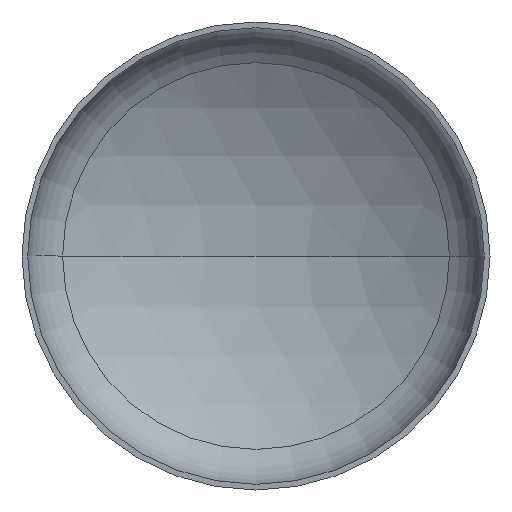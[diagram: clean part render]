
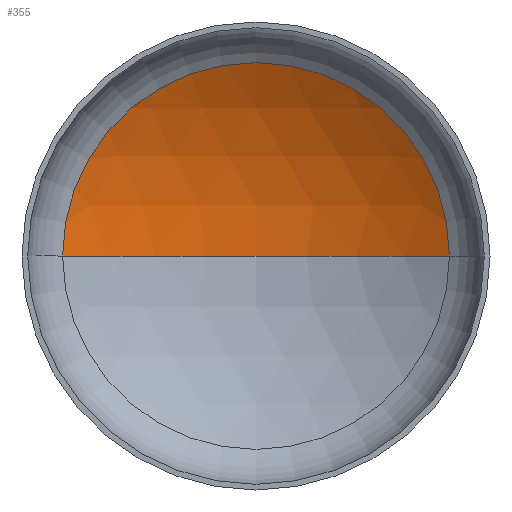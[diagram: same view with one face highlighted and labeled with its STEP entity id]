
A CAD part, front view. The second image highlights one B-rep face of the part: STEP entity #355.
In plain terms, the highlighted spherical face has radius 2880 mm.
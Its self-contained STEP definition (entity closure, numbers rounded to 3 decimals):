
#10 = AXIS2_PLACEMENT_3D ( 'NONE', #386, #379, #299 ) ;
#24 = DIRECTION ( 'NONE',  ( 1., 0., 0. ) ) ;
#30 = AXIS2_PLACEMENT_3D ( 'NONE', #106, #320, #24 ) ;
#34 = AXIS2_PLACEMENT_3D ( 'NONE', #169, #161, #360 ) ;
#35 = AXIS2_PLACEMENT_3D ( 'NONE', #285, #283, #282 ) ;
#46 = ORIENTED_EDGE ( 'NONE', *, *, #93, .T. ) ;
#71 = EDGE_LOOP ( 'NONE', ( #148, #46, #312 ) ) ;
#80 = EDGE_CURVE ( 'NONE', #230, #286, #184, .T. ) ;
#93 = EDGE_CURVE ( 'NONE', #244, #230, #102, .T. ) ;
#99 = EDGE_CURVE ( 'NONE', #244, #286, #195, .T. ) ;
#102 = CIRCLE ( 'NONE', #34, 2880. ) ;
#106 = CARTESIAN_POINT ( 'NONE',  ( 0., -1850.785, 0. ) ) ;
#127 = FACE_OUTER_BOUND ( 'NONE', #71, .T. ) ;
#138 = CARTESIAN_POINT ( 'NONE',  ( 0., 1029.215, 0. ) ) ;
#146 = CARTESIAN_POINT ( 'NONE',  ( 1487.69, 615.22, 0. ) ) ;
#148 = ORIENTED_EDGE ( 'NONE', *, *, #99, .F. ) ;
#161 = DIRECTION ( 'NONE',  ( 0., 0., -1. ) ) ;
#169 = CARTESIAN_POINT ( 'NONE',  ( 0., -1850.785, 0. ) ) ;
#184 = CIRCLE ( 'NONE', #35, 1487.69 ) ;
#195 = CIRCLE ( 'NONE', #30, 2880. ) ;
#230 = VERTEX_POINT ( 'NONE', #146 ) ;
#244 = VERTEX_POINT ( 'NONE', #138 ) ;
#282 = DIRECTION ( 'NONE',  ( 1., 0., 0. ) ) ;
#283 = DIRECTION ( 'NONE',  ( 0., -1., 0. ) ) ;
#285 = CARTESIAN_POINT ( 'NONE',  ( 0., 615.22, 0. ) ) ;
#286 = VERTEX_POINT ( 'NONE', #401 ) ;
#299 = DIRECTION ( 'NONE',  ( -1., 0., 0. ) ) ;
#312 = ORIENTED_EDGE ( 'NONE', *, *, #80, .T. ) ;
#320 = DIRECTION ( 'NONE',  ( 0., 0., 1. ) ) ;
#355 = ADVANCED_FACE ( 'NONE', ( #127 ), #357, .F. ) ;
#357 = SPHERICAL_SURFACE ( 'NONE', #10, 2880. ) ;
#360 = DIRECTION ( 'NONE',  ( -1., 0., 0. ) ) ;
#379 = DIRECTION ( 'NONE',  ( 0., 0., -1. ) ) ;
#386 = CARTESIAN_POINT ( 'NONE',  ( 0., -1850.785, 0. ) ) ;
#401 = CARTESIAN_POINT ( 'NONE',  ( -1487.69, 615.22, 0. ) ) ;
